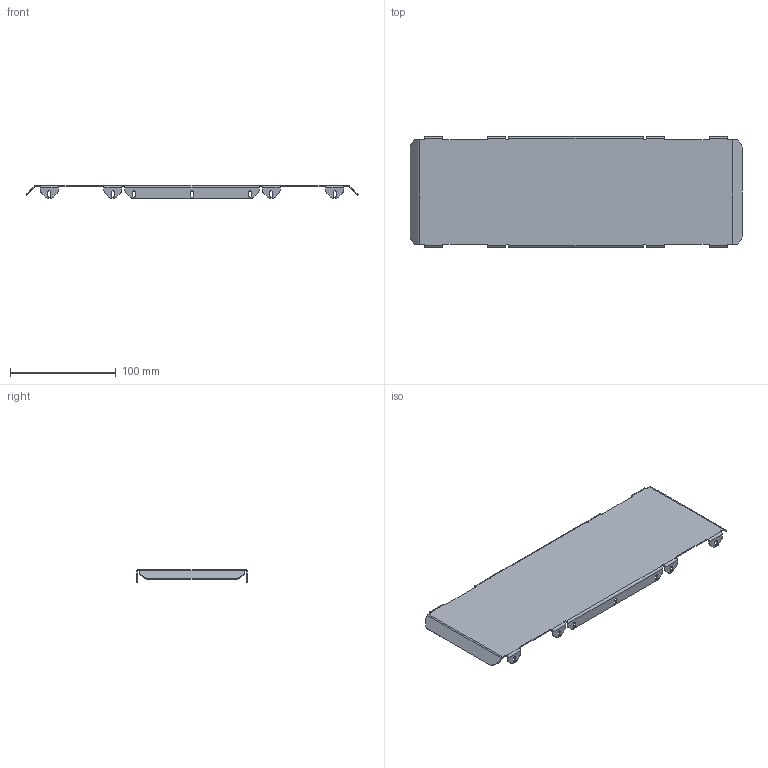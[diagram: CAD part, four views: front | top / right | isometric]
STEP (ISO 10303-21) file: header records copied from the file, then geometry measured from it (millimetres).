
FILE_DESCRIPTION(/* description */ ('Unknown'),/* implementation_level */ '2;1');
FILE_NAME(/* name */ 'PSM07_bent',/* time_stamp */ '2025-10-07T10:38:40+02:00',/* author */ ('Unknown'),/* organization */ ('Unknown'),/* preprocessor_version */ 'ST-DEVELOPER v19.4',/* originating_system */ 'Solid Edge',/* authorisation */ 'Unknown');
FILE_SCHEMA (('AUTOMOTIVE_DESIGN {1 0 10303 214 3 1 1}'));
Length unit declared in the file: millimetre
Products named in the file (1): PSM07
Bounding box: 314.32 x 105 x 11.91 mm (x, y, z)
Volume: 36216.8 mm3; surface area: 73647.9 mm2
Topology: 1 solids, 1 shells, 254 faces, 716 edges, 464 vertices
Faces by surface type: plane 118, cylinder 116, bspline 20
Entity records: 8418 total; most frequent: CARTESIAN_POINT 1695, ORIENTED_EDGE 1432, DIRECTION 1378, EDGE_CURVE 716, AXIS2_PLACEMENT_3D 467, VERTEX_POINT 464, LINE 444, VECTOR 444
